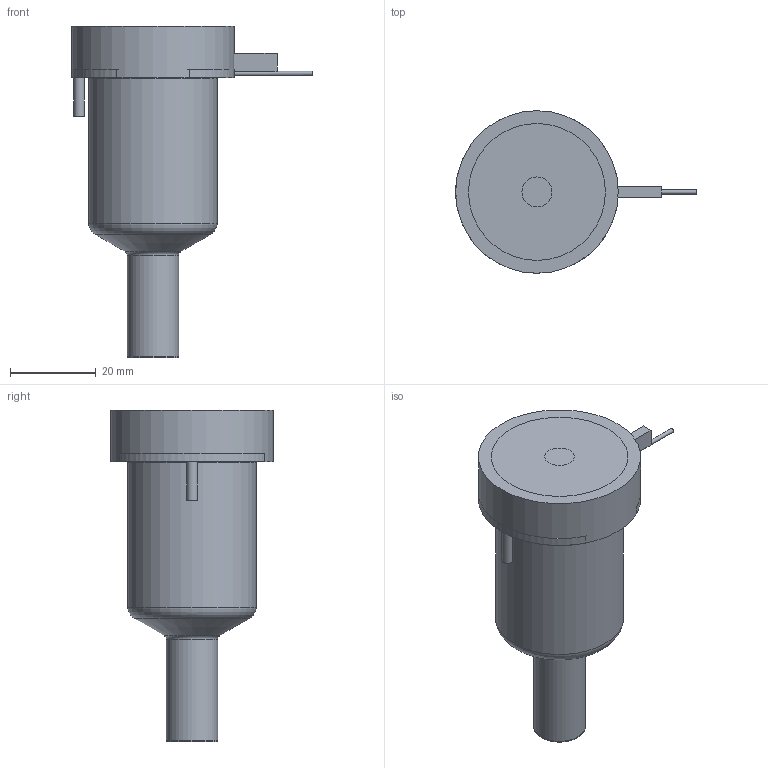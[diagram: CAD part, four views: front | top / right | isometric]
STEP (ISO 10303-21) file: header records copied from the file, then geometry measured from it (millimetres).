
FILE_DESCRIPTION(/* description */ (''),/* implementation_level */ '2;1');
FILE_NAME(/* name */ 'BXYCN16045P4U_250C_a',/* time_stamp */ '2016-02-23T09:20:40+13:00',/* author */ (''),/* organization */ (''),/* preprocessor_version */ 'ST-DEVELOPER v9',/* originating_system */ 'UGS - NX 4.0',/* authorisation */ '');
FILE_SCHEMA (('CONFIG_CONTROL_DESIGN'));
Length unit declared in the file: millimetre
Products named in the file (1): matt48E8yt0t
Bounding box: 56.25 x 38 x 77.44 mm (x, y, z)
Volume: 75862.9 mm3; surface area: 16576.9 mm2
Topology: 2 solids, 2 shells, 67 faces, 149 edges, 97 vertices
Faces by surface type: plane 31, cylinder 22, torus 7, cone 5, bspline 1, sphere 1
Full cylindrical faces by diameter (mm): 1 x2, 1.5 x1, 2.5 x1, 5 x1, 7 x1, 11.61 x1, 11.995 x2, 14.8 x1, 25.4 x1, 30 x1, 38 x1
Entity records: 1951 total; most frequent: CARTESIAN_POINT 487, DIRECTION 302, ORIENTED_EDGE 234, AXIS2_PLACEMENT_3D 130, EDGE_CURVE 117, EDGE_LOOP 104, VERTEX_POINT 89, ADVANCED_FACE 67
